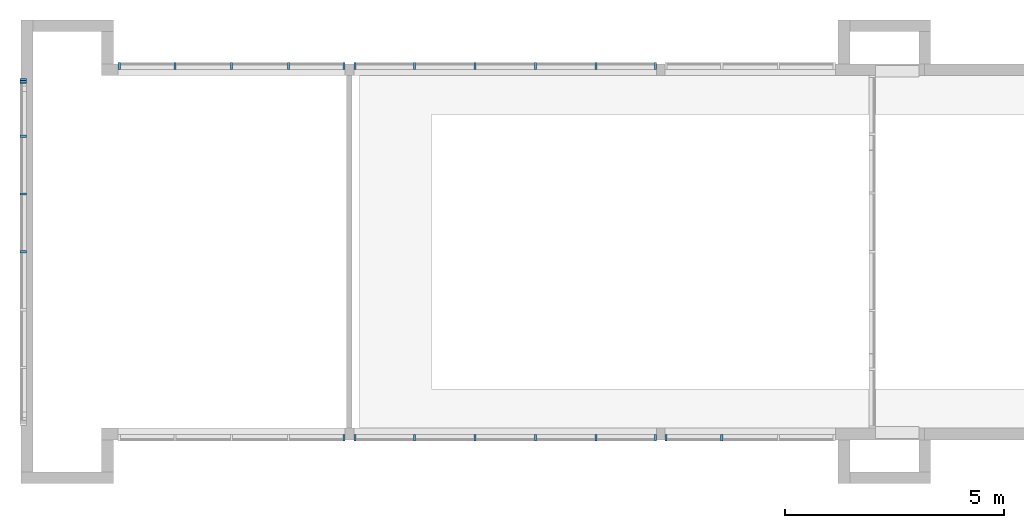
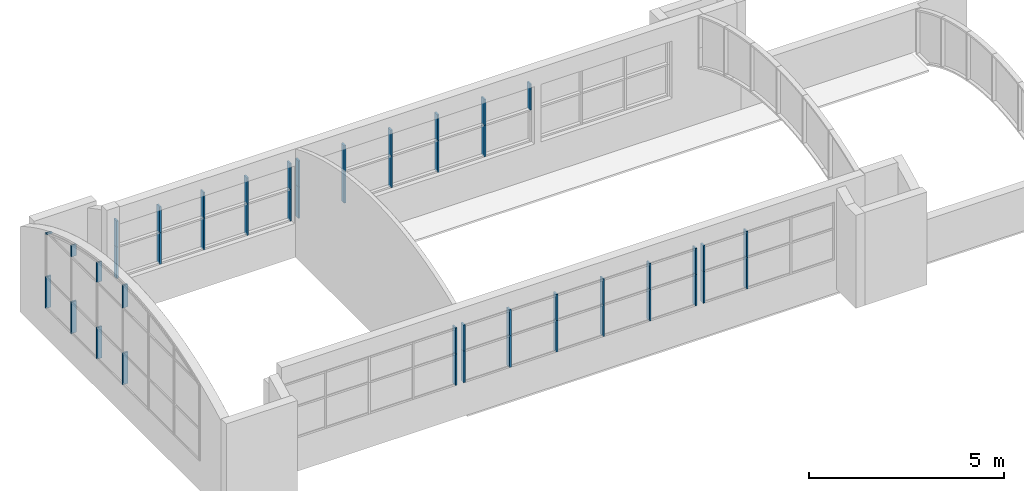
# One storey, part 7 of 14: 47 members, 6 elements without a shape of their own.
"""IFC2X3 building model written with IfcOpenShell, lengths in metres."""

from ifc_helpers import new_model, entity, si_unit, converted_unit, frame, frame_2d, origin, origin_2d_with_axis, place, context, project, spatial, polyline, circle_curve, parameter, trimmed, segment, composite_curve, rectangle, outline, extrude, source, transform, mapped, material, type_object, type_shapes, element, aggregate, save


model = new_model("IFC2X3")

# Units and contexts
model_context = context("Model", 3, precision=1e-09, world=origin())
plan_context = context("Plan", 3, precision=1e-09, world=origin())
ifc_project = project(units=[si_unit("LENGTHUNIT", "METRE"), si_unit("AREAUNIT", "SQUARE_METRE"), si_unit("VOLUMEUNIT", "CUBIC_METRE"), converted_unit("PLANEANGLEUNIT", "DEGREE", entity("IfcRatioMeasure", 0.01745329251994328), si_unit("PLANEANGLEUNIT", "RADIAN"), dimensions=[0, 0, 0, 0, 0, 0, 0]), si_unit("TIMEUNIT", "SECOND")], contexts=[model_context, plan_context])

# Site, building, storey
site_placement = place(None, origin())
site = spatial("IfcSite", under=ifc_project, at=site_placement, Name="Default", CompositionType="ELEMENT")
building_placement = place(site_placement, origin())
building = spatial("IfcBuilding", under=site, at=building_placement, CompositionType="ELEMENT")
storey_placement = place(building_placement, frame((0.0, 0.0, 9.25000000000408)))
storey = spatial("IfcBuildingStorey", under=building, at=storey_placement, Name="Roof - Main", CompositionType="ELEMENT", Elevation=9.25000000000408)

# Curtain wall, members
curtain_wall_1_placement = place(storey_placement, origin())
curtain_wall_1 = element("IfcCurtainWall", 1, at=curtain_wall_1_placement, inside=storey, Name="Curtain Wall:Storefront", ObjectType="Curtain Wall:Storefront")
ifc_material = material(Name="Metal - Aluminium")
member_type_1 = type_object("IfcMemberType", Name="50 x 150mm", PredefinedType="MULLION")
shared_shape_1 = source(origin(), model_context, "Body", "SweptSolid", [
    extrude(rectangle(XDim=0.05, YDim=0.15, at=origin_2d_with_axis()), frame((0.0, 0.0, -0.9868944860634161), z_axis=(0.0, 0.0, 1.0), x_axis=(-1.0, 0.0, 0.0)), (0.0, 0.0, 1.0), 0.9868944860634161),
])
type_shapes(member_type_1, [shared_shape_1])
member_1_placement = place(storey_placement, frame((-29.30100000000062, 35.93490399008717, 1.067), z_axis=(0.0, 0.0, -1.0), x_axis=(1.0, 0.0, 0.0)))
member_1 = element("IfcMember", 2, at=member_1_placement, type_object=member_type_1, material=ifc_material, Name="Rectangular Mullion:50 x 150mm:50 x 150mm", ObjectType="50 x 150mm", context=model_context, shape_type="MappedRepresentation", body=[
    mapped(shared_shape_1, transform((0.0, 0.0, 0.0), scale=1.0)),
])
member_2_placement = place(storey_placement, frame((-30.68200000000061, 35.93490399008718, 1.067), z_axis=(0.0, 0.0, -1.0), x_axis=(1.0, 0.0, 0.0)))
member_2 = element("IfcMember", 3, at=member_2_placement, type_object=member_type_1, material=ifc_material, Name="Rectangular Mullion:50 x 150mm:50 x 150mm", ObjectType="50 x 150mm", context=model_context, shape_type="MappedRepresentation", body=[
    mapped(shared_shape_1, transform((0.0, 0.0, 0.0), scale=1.0)),
])
member_3_placement = place(storey_placement, frame((-32.06300000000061, 35.93490399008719, 1.067), z_axis=(0.0, 0.0, -1.0), x_axis=(1.0, 0.0, 0.0)))
member_3 = element("IfcMember", 4, at=member_3_placement, type_object=member_type_1, material=ifc_material, Name="Rectangular Mullion:50 x 150mm:50 x 150mm", ObjectType="50 x 150mm", context=model_context, shape_type="MappedRepresentation", body=[
    mapped(shared_shape_1, transform((0.0, 0.0, 0.0), scale=1.0)),
])
member_4_placement = place(storey_placement, frame((-27.92000000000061, 35.93490399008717, 1.067), z_axis=(0.0, 0.0, -1.0), x_axis=(1.0, 0.0, 0.0)))
member_4 = element("IfcMember", 5, at=member_4_placement, type_object=member_type_1, material=ifc_material, Name="Rectangular Mullion:50 x 150mm:50 x 150mm", ObjectType="50 x 150mm", context=model_context, shape_type="MappedRepresentation", body=[
    mapped(shared_shape_1, transform((0.0, 0.0, 0.0), scale=1.0)),
])

curtain_wall_2_placement = place(storey_placement, origin())
curtain_wall_2 = element("IfcCurtainWall", 6, at=curtain_wall_2_placement, inside=storey, Name="Curtain Wall:Storefront", ObjectType="Curtain Wall:Storefront")
member_5_placement = place(storey_placement, frame((-40.99000000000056, 33.01439541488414, 1.067), z_axis=(0.0, 0.0, -1.0), x_axis=(0.0, 1.0, 0.0)))
member_5 = element("IfcMember", 7, at=member_5_placement, type_object=member_type_1, material=ifc_material, Name="Rectangular Mullion:50 x 150mm:50 x 150mm", ObjectType="50 x 150mm", context=model_context, shape_type="MappedRepresentation", body=[
    mapped(shared_shape_1, transform((0.0, 0.0, 0.0), scale=1.0)),
])
member_6_placement = place(storey_placement, frame((-40.99000000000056, 34.33379082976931, 1.067), z_axis=(0.0, 0.0, -1.0), x_axis=(0.0, 1.0, 0.0)))
member_6 = element("IfcMember", 8, at=member_6_placement, type_object=member_type_1, material=ifc_material, Name="Rectangular Mullion:50 x 150mm:50 x 150mm", ObjectType="50 x 150mm", context=model_context, shape_type="MappedRepresentation", body=[
    mapped(shared_shape_1, transform((0.0, 0.0, 0.0), scale=1.0)),
])
member_7_placement = place(storey_placement, frame((-40.99000000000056, 31.69499999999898, 1.067), z_axis=(0.0, 0.0, -1.0), x_axis=(0.0, 1.0, 0.0)))
member_7 = element("IfcMember", 9, at=member_7_placement, type_object=member_type_1, material=ifc_material, Name="Rectangular Mullion:50 x 150mm:50 x 150mm", ObjectType="50 x 150mm", context=model_context, shape_type="MappedRepresentation", body=[
    mapped(shared_shape_1, transform((0.0, 0.0, 0.0), scale=1.0)),
])

curtain_wall_3_placement = place(storey_placement, origin())
curtain_wall_3 = element("IfcCurtainWall", 10, at=curtain_wall_3_placement, inside=storey, Name="Curtain Wall:Storefront", ObjectType="Curtain Wall:Storefront")
member_8_placement = place(storey_placement, frame((-36.23600000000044, 35.93490399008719, 1.067), z_axis=(0.0, 0.0, -1.0), x_axis=(1.0, 0.0, 0.0)))
member_8 = element("IfcMember", 11, at=member_8_placement, type_object=member_type_1, material=ifc_material, Name="Rectangular Mullion:50 x 150mm:50 x 150mm", ObjectType="50 x 150mm", context=model_context, shape_type="MappedRepresentation", body=[
    mapped(shared_shape_1, transform((0.0, 0.0, 0.0), scale=1.0)),
])
member_9_placement = place(storey_placement, frame((-37.53100000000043, 35.9349039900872, 1.067), z_axis=(0.0, 0.0, -1.0), x_axis=(1.0, 0.0, 0.0)))
member_9 = element("IfcMember", 12, at=member_9_placement, type_object=member_type_1, material=ifc_material, Name="Rectangular Mullion:50 x 150mm:50 x 150mm", ObjectType="50 x 150mm", context=model_context, shape_type="MappedRepresentation", body=[
    mapped(shared_shape_1, transform((0.0, 0.0, 0.0), scale=1.0)),
])
member_10_placement = place(storey_placement, frame((-34.94100000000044, 35.93490399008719, 1.067), z_axis=(0.0, 0.0, -1.0), x_axis=(1.0, 0.0, 0.0)))
member_10 = element("IfcMember", 13, at=member_10_placement, type_object=member_type_1, material=ifc_material, Name="Rectangular Mullion:50 x 150mm:50 x 150mm", ObjectType="50 x 150mm", context=model_context, shape_type="MappedRepresentation", body=[
    mapped(shared_shape_1, transform((0.0, 0.0, 0.0), scale=1.0)),
])

# Member
member_type_2 = type_object("IfcMemberType", Name="50 x 150mm", PredefinedType="MULLION")
shared_shape_2 = source(origin(), model_context, "Body", "SweptSolid", [
    extrude(rectangle(XDim=0.05, YDim=0.15, at=origin_2d_with_axis()), frame((0.0, 0.0, -0.8131055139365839), z_axis=(0.0, 0.0, 1.0), x_axis=(-1.0, 0.0, 0.0)), (0.0, 0.0, 1.0), 0.8131055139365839),
])
type_shapes(member_type_2, [shared_shape_2])
member_11_placement = place(storey_placement, frame((-32.06300000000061, 35.93490399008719, 2.053894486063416), z_axis=(0.0, 0.0, -1.0), x_axis=(1.0, 0.0, 0.0)))
member_11 = element("IfcMember", 14, at=member_11_placement, type_object=member_type_2, material=ifc_material, Name="Rectangular Mullion:50 x 150mm:50 x 150mm", ObjectType="50 x 150mm", context=model_context, shape_type="MappedRepresentation", body=[
    mapped(shared_shape_2, transform((0.0, 0.0, 0.0), scale=1.0)),
])

member_12_placement = place(storey_placement, frame((-29.30100000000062, 35.93490399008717, 2.053894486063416), z_axis=(0.0, 0.0, -1.0), x_axis=(1.0, 0.0, 0.0)))
member_12 = element("IfcMember", 15, at=member_12_placement, type_object=member_type_2, material=ifc_material, Name="Rectangular Mullion:50 x 150mm:50 x 150mm", ObjectType="50 x 150mm", context=model_context, shape_type="MappedRepresentation", body=[
    mapped(shared_shape_2, transform((0.0, 0.0, 0.0), scale=1.0)),
])

member_13_placement = place(storey_placement, frame((-27.92000000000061, 35.93490399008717, 2.053894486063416), z_axis=(0.0, 0.0, -1.0), x_axis=(1.0, 0.0, 0.0)))
member_13 = element("IfcMember", 16, at=member_13_placement, type_object=member_type_2, material=ifc_material, Name="Rectangular Mullion:50 x 150mm:50 x 150mm", ObjectType="50 x 150mm", context=model_context, shape_type="MappedRepresentation", body=[
    mapped(shared_shape_2, transform((0.0, 0.0, 0.0), scale=1.0)),
])

member_14_placement = place(storey_placement, frame((-30.68200000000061, 35.93490399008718, 2.053894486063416), z_axis=(0.0, 0.0, -1.0), x_axis=(1.0, 0.0, 0.0)))
member_14 = element("IfcMember", 17, at=member_14_placement, type_object=member_type_2, material=ifc_material, Name="Rectangular Mullion:50 x 150mm:50 x 150mm", ObjectType="50 x 150mm", context=model_context, shape_type="MappedRepresentation", body=[
    mapped(shared_shape_2, transform((0.0, 0.0, 0.0), scale=1.0)),
])

member_15_placement = place(storey_placement, frame((-36.23600000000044, 35.93490399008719, 2.053894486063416), z_axis=(0.0, 0.0, -1.0), x_axis=(1.0, 0.0, 0.0)))
member_15 = element("IfcMember", 18, at=member_15_placement, type_object=member_type_2, material=ifc_material, Name="Rectangular Mullion:50 x 150mm:50 x 150mm", ObjectType="50 x 150mm", context=model_context, shape_type="MappedRepresentation", body=[
    mapped(shared_shape_2, transform((0.0, 0.0, 0.0), scale=1.0)),
])

member_16_placement = place(storey_placement, frame((-37.53100000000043, 35.9349039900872, 2.053894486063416), z_axis=(0.0, 0.0, -1.0), x_axis=(1.0, 0.0, 0.0)))
member_16 = element("IfcMember", 19, at=member_16_placement, type_object=member_type_2, material=ifc_material, Name="Rectangular Mullion:50 x 150mm:50 x 150mm", ObjectType="50 x 150mm", context=model_context, shape_type="MappedRepresentation", body=[
    mapped(shared_shape_2, transform((0.0, 0.0, 0.0), scale=1.0)),
])

member_17_placement = place(storey_placement, frame((-34.94100000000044, 35.93490399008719, 2.053894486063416), z_axis=(0.0, 0.0, -1.0), x_axis=(1.0, 0.0, 0.0)))
member_17 = element("IfcMember", 20, at=member_17_placement, type_object=member_type_2, material=ifc_material, Name="Rectangular Mullion:50 x 150mm:50 x 150mm", ObjectType="50 x 150mm", context=model_context, shape_type="MappedRepresentation", body=[
    mapped(shared_shape_2, transform((0.0, 0.0, 0.0), scale=1.0)),
])

# Curtain wall, members
curtain_wall_4_placement = place(storey_placement, origin())
curtain_wall_4 = element("IfcCurtainWall", 21, at=curtain_wall_4_placement, inside=storey, Name="Curtain Wall:Storefront", ObjectType="Curtain Wall:Storefront")
member_type_3 = type_object("IfcMemberType", Name="50 x 150mm", PredefinedType="MULLION")
shared_shape_3 = source(origin(), model_context, "Body", "SweptSolid", [
    extrude(rectangle(XDim=0.05, YDim=0.15, at=origin_2d_with_axis()), frame((0.0, 0.0, -0.8131055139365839), z_axis=(0.0, 0.0, 1.0), x_axis=(-1.0, 0.0, 0.0)), (0.0, 0.0, 1.0), 0.8131055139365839),
])
type_shapes(member_type_3, [shared_shape_3])
member_18_placement = place(storey_placement, frame((-27.92000000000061, 27.45559600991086, 2.053894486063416), z_axis=(0.0, 0.0, -1.0), x_axis=(1.0, 0.0, 0.0)))
member_18 = element("IfcMember", 22, at=member_18_placement, type_object=member_type_3, material=ifc_material, Name="Rectangular Mullion:50 x 150mm:50 x 150mm", ObjectType="50 x 150mm", context=model_context, shape_type="MappedRepresentation", body=[
    mapped(shared_shape_3, transform((0.0, 0.0, 0.0), scale=1.0)),
])
member_19_placement = place(storey_placement, frame((-29.30100000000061, 27.45559600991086, 2.053894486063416), z_axis=(0.0, 0.0, -1.0), x_axis=(1.0, 0.0, 0.0)))
member_19 = element("IfcMember", 23, at=member_19_placement, type_object=member_type_3, material=ifc_material, Name="Rectangular Mullion:50 x 150mm:50 x 150mm", ObjectType="50 x 150mm", context=model_context, shape_type="MappedRepresentation", body=[
    mapped(shared_shape_3, transform((0.0, 0.0, 0.0), scale=1.0)),
])
member_20_placement = place(storey_placement, frame((-30.68200000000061, 27.45559600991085, 2.053894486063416), z_axis=(0.0, 0.0, -1.0), x_axis=(1.0, 0.0, 0.0)))
member_20 = element("IfcMember", 24, at=member_20_placement, type_object=member_type_3, material=ifc_material, Name="Rectangular Mullion:50 x 150mm:50 x 150mm", ObjectType="50 x 150mm", context=model_context, shape_type="MappedRepresentation", body=[
    mapped(shared_shape_3, transform((0.0, 0.0, 0.0), scale=1.0)),
])
member_21_placement = place(storey_placement, frame((-32.06300000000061, 27.45559600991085, 2.053894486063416), z_axis=(0.0, 0.0, -1.0), x_axis=(1.0, 0.0, 0.0)))
member_21 = element("IfcMember", 25, at=member_21_placement, type_object=member_type_3, material=ifc_material, Name="Rectangular Mullion:50 x 150mm:50 x 150mm", ObjectType="50 x 150mm", context=model_context, shape_type="MappedRepresentation", body=[
    mapped(shared_shape_3, transform((0.0, 0.0, 0.0), scale=1.0)),
])

# Curtain wall, member
curtain_wall_5_placement = place(storey_placement, origin())
curtain_wall_5 = element("IfcCurtainWall", 26, at=curtain_wall_5_placement, inside=storey, Name="Curtain Wall:Storefront", ObjectType="Curtain Wall:Storefront")
member_22_placement = place(storey_placement, frame((-25.05333333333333, 27.45559600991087, 2.053894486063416), z_axis=(0.0, 0.0, -1.0), x_axis=(1.0, 0.0, 0.0)))
member_22 = element("IfcMember", 27, at=member_22_placement, type_object=member_type_3, material=ifc_material, Name="Rectangular Mullion:50 x 150mm:50 x 150mm", ObjectType="50 x 150mm", context=model_context, shape_type="MappedRepresentation", body=[
    mapped(shared_shape_3, transform((0.0, 0.0, 0.0), scale=1.0)),
])

# Member
member_type_4 = type_object("IfcMemberType", Name="50 x 150mm", PredefinedType="MULLION")
shared_shape_4 = source(origin(), model_context, "Body", "SweptSolid", [
    extrude(rectangle(XDim=0.05, YDim=0.15, at=origin_2d_with_axis()), frame((0.0, 0.0, -0.9868944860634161), z_axis=(0.0, 0.0, 1.0), x_axis=(-1.0, 0.0, 0.0)), (0.0, 0.0, 1.0), 0.9868944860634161),
])
type_shapes(member_type_4, [shared_shape_4])
member_23_placement = place(storey_placement, frame((-27.92000000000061, 27.45559600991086, 1.067), z_axis=(0.0, 0.0, -1.0), x_axis=(1.0, 0.0, 0.0)))
member_23 = element("IfcMember", 28, at=member_23_placement, type_object=member_type_4, material=ifc_material, Name="Rectangular Mullion:50 x 150mm:50 x 150mm", ObjectType="50 x 150mm", context=model_context, shape_type="MappedRepresentation", body=[
    mapped(shared_shape_4, transform((0.0, 0.0, 0.0), scale=1.0)),
])

member_24_placement = place(storey_placement, frame((-25.05333333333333, 27.45559600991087, 1.067), z_axis=(0.0, 0.0, -1.0), x_axis=(1.0, 0.0, 0.0)))
member_24 = element("IfcMember", 29, at=member_24_placement, type_object=member_type_4, material=ifc_material, Name="Rectangular Mullion:50 x 150mm:50 x 150mm", ObjectType="50 x 150mm", context=model_context, shape_type="MappedRepresentation", body=[
    mapped(shared_shape_4, transform((0.0, 0.0, 0.0), scale=1.0)),
])

member_25_placement = place(storey_placement, frame((-30.68200000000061, 27.45559600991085, 1.067), z_axis=(0.0, 0.0, -1.0), x_axis=(1.0, 0.0, 0.0)))
member_25 = element("IfcMember", 30, at=member_25_placement, type_object=member_type_4, material=ifc_material, Name="Rectangular Mullion:50 x 150mm:50 x 150mm", ObjectType="50 x 150mm", context=model_context, shape_type="MappedRepresentation", body=[
    mapped(shared_shape_4, transform((0.0, 0.0, 0.0), scale=1.0)),
])

member_26_placement = place(storey_placement, frame((-32.06300000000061, 27.45559600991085, 1.067), z_axis=(0.0, 0.0, -1.0), x_axis=(1.0, 0.0, 0.0)))
member_26 = element("IfcMember", 31, at=member_26_placement, type_object=member_type_4, material=ifc_material, Name="Rectangular Mullion:50 x 150mm:50 x 150mm", ObjectType="50 x 150mm", context=model_context, shape_type="MappedRepresentation", body=[
    mapped(shared_shape_4, transform((0.0, 0.0, 0.0), scale=1.0)),
])

member_27_placement = place(storey_placement, frame((-29.30100000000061, 27.45559600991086, 1.067), z_axis=(0.0, 0.0, -1.0), x_axis=(1.0, 0.0, 0.0)))
member_27 = element("IfcMember", 32, at=member_27_placement, type_object=member_type_4, material=ifc_material, Name="Rectangular Mullion:50 x 150mm:50 x 150mm", ObjectType="50 x 150mm", context=model_context, shape_type="MappedRepresentation", body=[
    mapped(shared_shape_4, transform((0.0, 0.0, 0.0), scale=1.0)),
])

member_type_5 = type_object("IfcMemberType", Name="50 x 150mm", PredefinedType="MULLION")
shared_shape_5 = source(origin(), model_context, "Body", "SweptSolid", [
    extrude(rectangle(XDim=0.05, YDim=0.15, at=origin_2d_with_axis()), frame((-0.025, 0.0, -0.9868944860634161), z_axis=(0.0, 0.0, 1.0), x_axis=(-1.0, 0.0, 0.0)), (0.0, 0.0, 1.0), 0.9868944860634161),
])
type_shapes(member_type_5, [shared_shape_5])
member_28_placement = place(storey_placement, frame((-26.53900000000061, 27.45559600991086, 1.067), z_axis=(0.0, 0.0, -1.0), x_axis=(1.0, 0.0, 0.0)))
member_28 = element("IfcMember", 33, at=member_28_placement, type_object=member_type_5, material=ifc_material, Name="Rectangular Mullion:50 x 150mm:50 x 150mm", ObjectType="50 x 150mm", context=model_context, shape_type="MappedRepresentation", body=[
    mapped(shared_shape_5, transform((0.0, 0.0, 0.0), scale=1.0)),
])

# Curtain wall, member
curtain_wall_6_placement = place(storey_placement, origin())
curtain_wall_6 = element("IfcCurtainWall", 34, at=curtain_wall_6_placement, inside=storey, Name="Curtain Wall:Storefront", ObjectType="Curtain Wall:Storefront")
member_29_placement = place(storey_placement, frame((-33.64600000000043, 27.45559600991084, 1.067), z_axis=(0.0, 0.0, -1.0), x_axis=(1.0, 0.0, 0.0)))
member_29 = element("IfcMember", 35, at=member_29_placement, type_object=member_type_5, material=ifc_material, Name="Rectangular Mullion:50 x 150mm:50 x 150mm", ObjectType="50 x 150mm", context=model_context, shape_type="MappedRepresentation", body=[
    mapped(shared_shape_5, transform((0.0, 0.0, 0.0), scale=1.0)),
])

# Member
member_type_6 = type_object("IfcMemberType", Name="50 x 150mm", PredefinedType="MULLION")
type_shapes(member_type_6, [shared_shape_5])
member_30_placement = place(storey_placement, frame((-33.64600000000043, 35.93490399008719, 1.067), z_axis=(0.0, 0.0, -1.0), x_axis=(1.0, 0.0, 0.0)))
member_30 = element("IfcMember", 36, at=member_30_placement, type_object=member_type_6, material=ifc_material, Name="Rectangular Mullion:50 x 150mm:50 x 150mm", ObjectType="50 x 150mm", context=model_context, shape_type="MappedRepresentation", body=[
    mapped(shared_shape_5, transform((0.0, 0.0, 0.0), scale=1.0)),
])

member_31_placement = place(storey_placement, frame((-40.99000000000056, 35.65318624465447, 1.067), z_axis=(0.0, 0.0, -1.0), x_axis=(0.0, 1.0, 0.0)))
member_31 = element("IfcMember", 37, at=member_31_placement, type_object=member_type_6, material=ifc_material, Name="Rectangular Mullion:50 x 150mm:50 x 150mm", ObjectType="50 x 150mm", context=model_context, shape_type="MappedRepresentation", body=[
    mapped(shared_shape_5, transform((0.0, 0.0, 0.0), scale=1.0)),
])

member_type_7 = type_object("IfcMemberType", Name="50 x 150mm", PredefinedType="MULLION")
shared_shape_6 = source(origin(), model_context, "Body", "SweptSolid", [
    extrude(rectangle(XDim=0.05, YDim=0.15, at=origin_2d_with_axis()), frame((-0.025, 0.0, -0.9868944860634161), z_axis=(0.0, 0.0, 1.0), x_axis=(-1.0, 0.0, 0.0)), (0.0, 0.0, 1.0), 0.9868944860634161),
])
type_shapes(member_type_7, [shared_shape_6])
member_32_placement = place(storey_placement, frame((-33.44400000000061, 27.45559600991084, 2.053894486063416), z_axis=(0.0, 0.0, 1.0), x_axis=(-1.0, 0.0, 0.0)))
member_32 = element("IfcMember", 38, at=member_32_placement, type_object=member_type_7, material=ifc_material, Name="Rectangular Mullion:50 x 150mm:50 x 150mm", ObjectType="50 x 150mm", context=model_context, shape_type="MappedRepresentation", body=[
    mapped(shared_shape_6, transform((0.0, 0.0, 0.0), scale=1.0)),
])

member_type_8 = type_object("IfcMemberType", Name="50 x 150mm", PredefinedType="MULLION")
type_shapes(member_type_8, [shared_shape_6])
member_33_placement = place(storey_placement, frame((-33.44400000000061, 35.93490399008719, 2.053894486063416), z_axis=(0.0, 0.0, 1.0), x_axis=(-1.0, 0.0, 0.0)))
member_33 = element("IfcMember", 39, at=member_33_placement, type_object=member_type_8, material=ifc_material, Name="Rectangular Mullion:50 x 150mm:50 x 150mm", ObjectType="50 x 150mm", context=model_context, shape_type="MappedRepresentation", body=[
    mapped(shared_shape_6, transform((0.0, 0.0, 0.0), scale=1.0)),
])

member_34_placement = place(storey_placement, frame((-26.35, 27.45559600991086, 2.053894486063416), z_axis=(0.0, 0.0, 1.0), x_axis=(-1.0, 0.0, 0.0)))
member_34 = element("IfcMember", 40, at=member_34_placement, type_object=member_type_7, material=ifc_material, Name="Rectangular Mullion:50 x 150mm:50 x 150mm", ObjectType="50 x 150mm", context=model_context, shape_type="MappedRepresentation", body=[
    mapped(shared_shape_6, transform((0.0, 0.0, 0.0), scale=1.0)),
])

member_35_placement = place(storey_placement, frame((-38.82600000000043, 35.93490399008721, 2.053894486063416), z_axis=(0.0, 0.0, 1.0), x_axis=(-1.0, 0.0, 0.0)))
member_35 = element("IfcMember", 41, at=member_35_placement, type_object=member_type_8, material=ifc_material, Name="Rectangular Mullion:50 x 150mm:50 x 150mm", ObjectType="50 x 150mm", context=model_context, shape_type="MappedRepresentation", body=[
    mapped(shared_shape_6, transform((0.0, 0.0, 0.0), scale=1.0)),
])

member_type_9 = type_object("IfcMemberType", Name="50 x 150mm", PredefinedType="MULLION")
shared_shape_7 = source(origin(), model_context, "Body", "SweptSolid", [
    extrude(rectangle(XDim=0.05, YDim=0.15, at=origin_2d_with_axis()), frame((-0.025, 0.0, -0.8131055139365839), z_axis=(0.0, 0.0, 1.0), x_axis=(-1.0, 0.0, 0.0)), (0.0, 0.0, 1.0), 0.8131055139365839),
])
type_shapes(member_type_9, [shared_shape_7])
member_36_placement = place(storey_placement, frame((-33.44400000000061, 27.45559600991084, 2.867), z_axis=(0.0, 0.0, 1.0), x_axis=(-1.0, 0.0, 0.0)))
member_36 = element("IfcMember", 42, at=member_36_placement, type_object=member_type_9, material=ifc_material, Name="Rectangular Mullion:50 x 150mm:50 x 150mm", ObjectType="50 x 150mm", context=model_context, shape_type="MappedRepresentation", body=[
    mapped(shared_shape_7, transform((0.0, 0.0, 0.0), scale=1.0)),
])

member_type_10 = type_object("IfcMemberType", Name="50 x 150mm", PredefinedType="MULLION")
type_shapes(member_type_10, [shared_shape_7])
member_37_placement = place(storey_placement, frame((-33.44400000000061, 35.93490399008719, 2.867), z_axis=(0.0, 0.0, 1.0), x_axis=(-1.0, 0.0, 0.0)))
member_37 = element("IfcMember", 43, at=member_37_placement, type_object=member_type_10, material=ifc_material, Name="Rectangular Mullion:50 x 150mm:50 x 150mm", ObjectType="50 x 150mm", context=model_context, shape_type="MappedRepresentation", body=[
    mapped(shared_shape_7, transform((0.0, 0.0, 0.0), scale=1.0)),
])

member_38_placement = place(storey_placement, frame((-38.82600000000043, 35.93490399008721, 2.867), z_axis=(0.0, 0.0, 1.0), x_axis=(-1.0, 0.0, 0.0)))
member_38 = element("IfcMember", 44, at=member_38_placement, type_object=member_type_10, material=ifc_material, Name="Rectangular Mullion:50 x 150mm:50 x 150mm", ObjectType="50 x 150mm", context=model_context, shape_type="MappedRepresentation", body=[
    mapped(shared_shape_7, transform((0.0, 0.0, 0.0), scale=1.0)),
])

member_39_placement = place(storey_placement, frame((-26.35, 27.45559600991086, 2.867), z_axis=(0.0, 0.0, 1.0), x_axis=(-1.0, 0.0, 0.0)))
member_39 = element("IfcMember", 45, at=member_39_placement, type_object=member_type_9, material=ifc_material, Name="Rectangular Mullion:50 x 150mm:50 x 150mm", ObjectType="50 x 150mm", context=model_context, shape_type="MappedRepresentation", body=[
    mapped(shared_shape_7, transform((0.0, 0.0, 0.0), scale=1.0)),
])

aggregate(curtain_wall_5, [member_24, member_22, member_34, member_39])

member_type_11 = type_object("IfcMemberType", Name="50 x 150mm", PredefinedType="MULLION")
shared_shape_8 = source(origin(), model_context, "Body", "SweptSolid", [
    extrude(rectangle(XDim=0.05, YDim=0.15, at=origin_2d_with_axis()), frame((-0.025, 0.0, -0.8131055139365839), z_axis=(0.0, 0.0, 1.0), x_axis=(-1.0, 0.0, 0.0)), (0.0, 0.0, 1.0), 0.8131055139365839),
])
type_shapes(member_type_11, [shared_shape_8])
member_40_placement = place(storey_placement, frame((-26.53900000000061, 35.93490399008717, 2.053894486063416), z_axis=(0.0, 0.0, -1.0), x_axis=(1.0, 0.0, 0.0)))
member_40 = element("IfcMember", 46, at=member_40_placement, type_object=member_type_11, material=ifc_material, Name="Rectangular Mullion:50 x 150mm:50 x 150mm", ObjectType="50 x 150mm", context=model_context, shape_type="MappedRepresentation", body=[
    mapped(shared_shape_8, transform((0.0, 0.0, 0.0), scale=1.0)),
])

aggregate(curtain_wall_1, [member_11, member_1, member_2, member_3, member_12, member_4, member_13, member_40, member_37, member_14, member_33])

member_type_12 = type_object("IfcMemberType", Name="50 x 150mm", PredefinedType="MULLION")
type_shapes(member_type_12, [shared_shape_8])
member_41_placement = place(storey_placement, frame((-33.64600000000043, 27.45559600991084, 2.053894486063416), z_axis=(0.0, 0.0, -1.0), x_axis=(1.0, 0.0, 0.0)))
member_41 = element("IfcMember", 47, at=member_41_placement, type_object=member_type_12, material=ifc_material, Name="Rectangular Mullion:50 x 150mm:50 x 150mm", ObjectType="50 x 150mm", context=model_context, shape_type="MappedRepresentation", body=[
    mapped(shared_shape_8, transform((0.0, 0.0, 0.0), scale=1.0)),
])

aggregate(curtain_wall_6, [member_41, member_29])

member_42_placement = place(storey_placement, frame((-26.53900000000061, 27.45559600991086, 2.053894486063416), z_axis=(0.0, 0.0, -1.0), x_axis=(1.0, 0.0, 0.0)))
member_42 = element("IfcMember", 48, at=member_42_placement, type_object=member_type_12, material=ifc_material, Name="Rectangular Mullion:50 x 150mm:50 x 150mm", ObjectType="50 x 150mm", context=model_context, shape_type="MappedRepresentation", body=[
    mapped(shared_shape_8, transform((0.0, 0.0, 0.0), scale=1.0)),
])

aggregate(curtain_wall_4, [member_18, member_36, member_32, member_19, member_42, member_28, member_23, member_20, member_21, member_25, member_26, member_27])

member_43_placement = place(storey_placement, frame((-33.64600000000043, 35.93490399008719, 2.053894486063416), z_axis=(0.0, 0.0, -1.0), x_axis=(1.0, 0.0, 0.0)))
member_43 = element("IfcMember", 49, at=member_43_placement, type_object=member_type_11, material=ifc_material, Name="Rectangular Mullion:50 x 150mm:50 x 150mm", ObjectType="50 x 150mm", context=model_context, shape_type="MappedRepresentation", body=[
    mapped(shared_shape_8, transform((0.0, 0.0, 0.0), scale=1.0)),
])

aggregate(curtain_wall_3, [member_15, member_35, member_43, member_30, member_38, member_16, member_8, member_17, member_9, member_10])

member_type_13 = type_object("IfcMemberType", Name="50 x 150mm", PredefinedType="MULLION")
shared_shape_9 = source(origin(), model_context, "Body", "SweptSolid", [
    extrude(outline(composite_curve([segment(polyline([(-0.424362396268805, -0.02499999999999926), (0.2828980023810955, -0.02499999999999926)]), True, "CONTINUOUS"), segment(trimmed(circle_curve(frame_2d((-9.868004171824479, 0.0), x_axis=(0.9916002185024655, -0.1293406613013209)), 10.1509329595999), [parameter(7.290383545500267)], [parameter(7.431493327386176)], True, "PARAMETER"), True, "CONTINUOUS"), segment(trimmed(circle_curve(frame_2d((-9.868004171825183, 0.0), x_axis=(1.0, 0.0)), 10.1509329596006), [parameter(0.0)], [parameter(0.1411097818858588)], True, "PARAMETER"), True, "CONTINUOUS"), segment(polyline([(0.2828980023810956, 0.02500000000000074), (-0.424362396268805, 0.02500000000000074)]), True, "CONTINUOUS"), segment(polyline([(-0.424362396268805, 0.02500000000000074), (-0.424362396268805, -0.02499999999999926)]), True, "CONTINUOUS")], self_intersect=False)), frame((0.0, -0.075, -0.424362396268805), z_axis=(0.0, 1.0, 0.0), x_axis=(0.0, 0.0, -1.0)), (0.0, 0.0, 1.0), 0.15),
])
type_shapes(member_type_13, [shared_shape_9])
member_44_placement = place(storey_placement, frame((-40.99000000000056, 31.69499999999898, 3.467), z_axis=(0.0, 0.0, -1.0), x_axis=(0.0, 1.0, 0.0)))
member_44 = element("IfcMember", 50, at=member_44_placement, type_object=member_type_13, material=ifc_material, Name="Rectangular Mullion:50 x 150mm:50 x 150mm", ObjectType="50 x 150mm", context=model_context, shape_type="MappedRepresentation", body=[
    mapped(shared_shape_9, transform((0.0, 0.0, 0.0), scale=1.0)),
])

member_type_14 = type_object("IfcMemberType", Name="50 x 150mm", PredefinedType="MULLION")
shared_shape_10 = source(origin(), model_context, "Body", "SweptSolid", [
    extrude(outline(composite_curve([segment(polyline([(-0.2402872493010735, -0.03031676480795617), (0.1112564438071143, -0.03031676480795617)]), True, "CONTINUOUS"), segment(trimmed(circle_curve(frame_2d((-9.683929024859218, 2.633474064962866), x_axis=(0.9257625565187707, -0.3781053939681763)), 10.15093295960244), [parameter(7.002770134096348)], [parameter(7.224544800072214)], True, "PARAMETER"), True, "CONTINUOUS"), segment(polyline([(0.1214937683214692, 0.007617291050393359), (0.1231072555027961, 0.01364976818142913)]), True, "CONTINUOUS"), segment(polyline([(0.1231072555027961, 0.01364976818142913), (0.1247170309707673, 0.01968323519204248)]), True, "CONTINUOUS"), segment(polyline([(0.1247170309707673, 0.01968323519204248), (-0.2402872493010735, 0.01968323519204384)]), True, "CONTINUOUS"), segment(polyline([(-0.2402872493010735, 0.01968323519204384), (-0.2402872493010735, -0.03031676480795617)]), True, "CONTINUOUS")], self_intersect=False)), frame((-0.005316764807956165, -0.07499999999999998, -0.2402872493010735), z_axis=(0.0, 1.0, 0.0), x_axis=(0.0, 0.0, -1.0)), (0.0, 0.0, 1.0), 0.15),
])
type_shapes(member_type_14, [shared_shape_10])
member_45_placement = place(storey_placement, frame((-40.99000000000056, 34.33379082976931, 3.467), z_axis=(0.0, 0.0, -1.0), x_axis=(0.0, 1.0, 0.0)))
member_45 = element("IfcMember", 51, at=member_45_placement, type_object=member_type_14, material=ifc_material, Name="Rectangular Mullion:50 x 150mm:50 x 150mm", ObjectType="50 x 150mm", context=model_context, shape_type="MappedRepresentation", body=[
    mapped(shared_shape_10, transform((0.0, 0.0, 0.0), scale=1.0)),
])

member_type_15 = type_object("IfcMemberType", Name="50 x 150mm", PredefinedType="MULLION")
shared_shape_11 = source(origin(), model_context, "Body", "SweptSolid", [
    extrude(outline(composite_curve([segment(polyline([(-0.02529319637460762, -0.05462106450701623), (0.02470680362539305, -0.05462106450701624)]), True, "CONTINUOUS"), segment(trimmed(circle_curve(frame_2d((10.17563976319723, -0.05462106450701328), x_axis=(-0.9999423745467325, 0.01073534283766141)), 10.15093295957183), [parameter(0.0)], [parameter(0.6151016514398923)], True, "PARAMETER"), False, "CONTINUOUS"), segment(polyline([(0.02529175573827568, 0.05435268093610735), (-0.02470536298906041, 0.05488944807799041)]), True, "CONTINUOUS"), segment(trimmed(circle_curve(frame_2d((10.17563976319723, -0.05462106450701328), x_axis=(-0.9999423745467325, 0.01073534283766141)), 10.20093295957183), [parameter(0.0)], [parameter(0.6151016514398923)], True, "PARAMETER"), True, "CONTINUOUS")], self_intersect=False)), frame((-0.02529319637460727, -0.07499999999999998, -0.05462106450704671), z_axis=(0.0, 1.0, 0.0), x_axis=(-0.9999423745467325, 0.0, 0.01073534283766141)), (0.0, 0.0, 1.0), 0.15),
])
type_shapes(member_type_15, [shared_shape_11])
member_46_placement = place(storey_placement, frame((-40.99000000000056, 35.65318624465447, 3.425049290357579), z_axis=(0.0, 0.9216501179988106, -0.3880219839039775), x_axis=(0.0, 0.3880219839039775, 0.9216501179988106)))
member_46 = element("IfcMember", 52, at=member_46_placement, type_object=member_type_15, material=ifc_material, Name="Rectangular Mullion:50 x 150mm:50 x 150mm", ObjectType="50 x 150mm", context=model_context, shape_type="MappedRepresentation", body=[
    mapped(shared_shape_11, transform((0.0, 0.0, 0.0), scale=1.0)),
])

member_type_16 = type_object("IfcMemberType", Name="50 x 150mm", PredefinedType="MULLION")
shared_shape_12 = source(origin(), model_context, "Body", "SweptSolid", [
    extrude(outline(composite_curve([segment(polyline([(-0.414592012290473, -0.02869999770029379), (0.2032790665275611, -0.02869999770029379)]), True, "CONTINUOUS"), segment(trimmed(circle_curve(frame_2d((-9.858233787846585, 1.315695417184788), x_axis=(0.9659627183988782, -0.2586813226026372)), 10.15093295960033), [parameter(7.381184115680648)], [parameter(7.560337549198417)], True, "PARAMETER"), True, "CONTINUOUS"), segment(polyline([(0.2074335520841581, 0.002767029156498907), (0.2086378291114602, 0.01203296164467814)]), True, "CONTINUOUS"), segment(polyline([(0.2086378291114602, 0.01203296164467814), (0.2098335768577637, 0.02130000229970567)]), True, "CONTINUOUS"), segment(polyline([(0.2098335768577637, 0.02130000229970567), (-0.414592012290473, 0.02130000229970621)]), True, "CONTINUOUS"), segment(polyline([(-0.414592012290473, 0.02130000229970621), (-0.414592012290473, -0.02869999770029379)]), True, "CONTINUOUS")], self_intersect=False)), frame((-0.003699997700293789, -0.07499999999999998, -0.414592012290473), z_axis=(0.0, 1.0, 0.0), x_axis=(0.0, 0.0, -1.0)), (0.0, 0.0, 1.0), 0.15),
])
type_shapes(member_type_16, [shared_shape_12])
member_47_placement = place(storey_placement, frame((-40.99000000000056, 33.01439541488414, 3.467), z_axis=(0.0, 0.0, -1.0), x_axis=(0.0, 1.0, 0.0)))
member_47 = element("IfcMember", 53, at=member_47_placement, type_object=member_type_16, material=ifc_material, Name="Rectangular Mullion:50 x 150mm:50 x 150mm", ObjectType="50 x 150mm", context=model_context, shape_type="MappedRepresentation", body=[
    mapped(shared_shape_12, transform((0.0, 0.0, 0.0), scale=1.0)),
])

aggregate(curtain_wall_2, [member_5, member_6, member_45, member_47, member_7, member_31, member_44, member_46])

save(model, "model.ifc")
